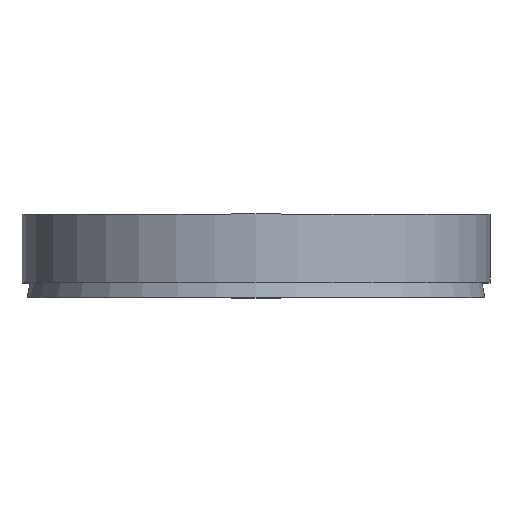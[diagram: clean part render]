
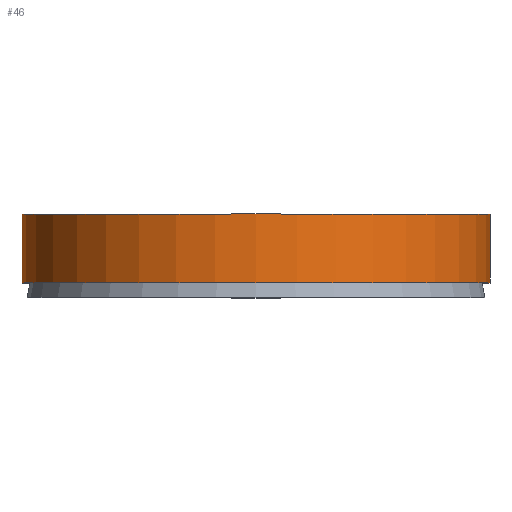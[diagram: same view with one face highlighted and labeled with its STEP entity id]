
A CAD part, top view. The second image highlights one B-rep face of the part: STEP entity #46.
In plain terms, the highlighted cylindrical face has radius 22.5 mm (diameter 45 mm), a full revolution.
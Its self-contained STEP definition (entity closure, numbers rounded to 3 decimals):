
#46 = ADVANCED_FACE( '', ( #93, #94 ), #95, .T. );
#93 = FACE_OUTER_BOUND( '', #132, .T. );
#94 = FACE_OUTER_BOUND( '', #133, .T. );
#95 = CYLINDRICAL_SURFACE( '', #134, 22.5 );
#132 = EDGE_LOOP( '', ( #179 ) );
#133 = EDGE_LOOP( '', ( #180 ) );
#134 = AXIS2_PLACEMENT_3D( '', #181, #182, #183 );
#179 = ORIENTED_EDGE( '', *, *, #189, .F. );
#180 = ORIENTED_EDGE( '', *, *, #198, .T. );
#181 = CARTESIAN_POINT( '', ( 0., -60., 0. ) );
#182 = DIRECTION( '', ( 0., 1., 0. ) );
#183 = DIRECTION( '', ( 0., 0., -1. ) );
#189 = EDGE_CURVE( '', #208, #208, #209, .T. );
#198 = EDGE_CURVE( '', #221, #221, #222, .T. );
#208 = VERTEX_POINT( '', #232 );
#209 = CIRCLE( '', #233, 22.5 );
#221 = VERTEX_POINT( '', #245 );
#222 = CIRCLE( '', #246, 22.5 );
#232 = CARTESIAN_POINT( '', ( 0., 1.4, -22.5 ) );
#233 = AXIS2_PLACEMENT_3D( '', #257, #258, #259 );
#245 = CARTESIAN_POINT( '', ( 0., 8., -22.5 ) );
#246 = AXIS2_PLACEMENT_3D( '', #269, #270, #271 );
#257 = CARTESIAN_POINT( '', ( 0., 1.4, 0. ) );
#258 = DIRECTION( '', ( 0., -1., 0. ) );
#259 = DIRECTION( '', ( 0., 0., -1. ) );
#269 = CARTESIAN_POINT( '', ( 0., 8., 0. ) );
#270 = DIRECTION( '', ( 0., -1., 0. ) );
#271 = DIRECTION( '', ( 0., 0., -1. ) );
